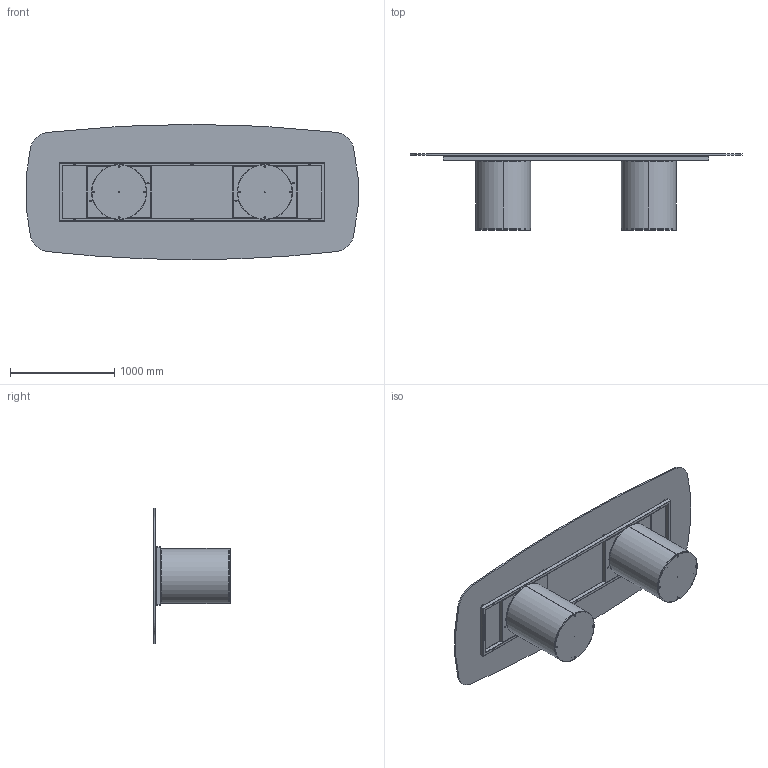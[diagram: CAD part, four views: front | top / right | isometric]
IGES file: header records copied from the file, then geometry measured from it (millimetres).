
Start section: SolidWorks IGES file using analytic representation for surfaces
Global section: file name: Y:\eforma\TECNICO\SOLIDWORKS\E-FORMA\1-TAVOLI\CILINDRO\02 parts\CI46G.IGS; native system: SolidWorks 2022; preprocessor: SolidWorks 2022; author: eforma.tech; date: 240808.091349; units: millimetre
Bounding box: 3189.57 x 735 x 1300 mm (x, y, z)
Volume: 72684534.8 mm3; surface area: 16932609 mm2
Topology: 38 solids, 38 shells, 975 faces, 2219 edges, 1278 vertices
Faces by surface type: revolution 533, plane 442
